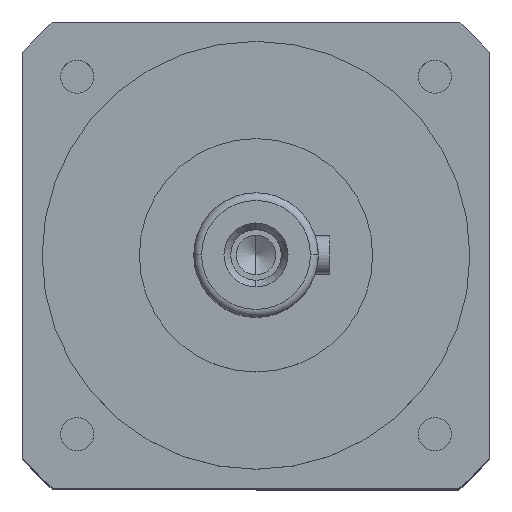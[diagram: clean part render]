
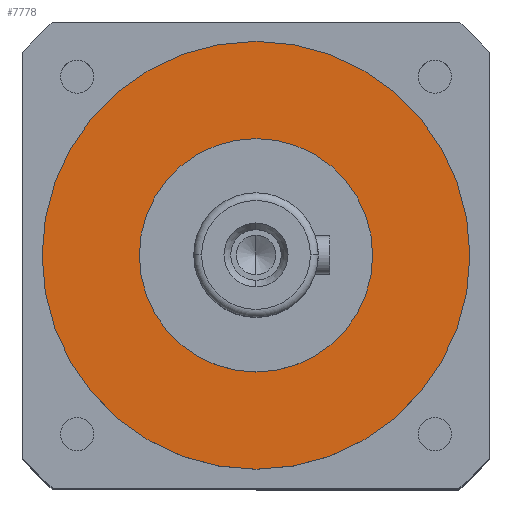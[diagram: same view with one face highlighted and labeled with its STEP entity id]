
A CAD part, top view. The second image highlights one B-rep face of the part: STEP entity #7778.
In plain terms, the highlighted planar face has unit normal (0, 0, 1).
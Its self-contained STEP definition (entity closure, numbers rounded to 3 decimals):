
#700 = EDGE_CURVE ( 'NONE', #35734, #25849, #10224, .T. ) ;
#2408 = ORIENTED_EDGE ( 'NONE', *, *, #700, .F. ) ;
#2995 = FACE_OUTER_BOUND ( 'NONE', #17918, .T. ) ;
#3533 = EDGE_CURVE ( 'NONE', #4888, #18988, #25947, .T. ) ;
#4888 = VERTEX_POINT ( 'NONE', #41188 ) ;
#7778 = ADVANCED_FACE ( 'NONE', ( #15347, #2995 ), #26363, .F. ) ;
#8928 = CARTESIAN_POINT ( 'NONE',  ( 30., 0., -52. ) ) ;
#10224 = CIRCLE ( 'NONE', #19613, 30. ) ;
#12167 = CARTESIAN_POINT ( 'NONE',  ( 0., 0., -52. ) ) ;
#13253 = CARTESIAN_POINT ( 'NONE',  ( 0., 0., -52. ) ) ;
#14141 = CARTESIAN_POINT ( 'NONE',  ( -55., 0., -52. ) ) ;
#14198 = CIRCLE ( 'NONE', #43589, 30. ) ;
#15347 = FACE_BOUND ( 'NONE', #28214, .T. ) ;
#15640 = DIRECTION ( 'NONE',  ( 1., 0., 0. ) ) ;
#15823 = CIRCLE ( 'NONE', #38932, 55. ) ;
#16663 = CARTESIAN_POINT ( 'NONE',  ( -30., 0., -52. ) ) ;
#16723 = DIRECTION ( 'NONE',  ( 1., 0., 0. ) ) ;
#17918 = EDGE_LOOP ( 'NONE', ( #37326, #23477 ) ) ;
#18988 = VERTEX_POINT ( 'NONE', #14141 ) ;
#19613 = AXIS2_PLACEMENT_3D ( 'NONE', #28046, #28002, #27996 ) ;
#20710 = DIRECTION ( 'NONE',  ( 1., 0., 0. ) ) ;
#20758 = DIRECTION ( 'NONE',  ( 0., 0., -1. ) ) ;
#20817 = CARTESIAN_POINT ( 'NONE',  ( 0., 0., -52. ) ) ;
#23477 = ORIENTED_EDGE ( 'NONE', *, *, #28581, .F. ) ;
#25849 = VERTEX_POINT ( 'NONE', #8928 ) ;
#25947 = CIRCLE ( 'NONE', #41371, 55. ) ;
#26196 = DIRECTION ( 'NONE',  ( -1., 0., 0. ) ) ;
#26300 = DIRECTION ( 'NONE',  ( 0., 0., -1. ) ) ;
#26361 = EDGE_CURVE ( 'NONE', #25849, #35734, #14198, .T. ) ;
#26363 = PLANE ( 'NONE',  #37081 ) ;
#26448 = CARTESIAN_POINT ( 'NONE',  ( 0., 30., -52. ) ) ;
#27996 = DIRECTION ( 'NONE',  ( 1., 0., 0. ) ) ;
#28002 = DIRECTION ( 'NONE',  ( 0., 0., 1. ) ) ;
#28046 = CARTESIAN_POINT ( 'NONE',  ( 0., 0., -52. ) ) ;
#28214 = EDGE_LOOP ( 'NONE', ( #40854, #2408 ) ) ;
#28581 = EDGE_CURVE ( 'NONE', #18988, #4888, #15823, .T. ) ;
#35734 = VERTEX_POINT ( 'NONE', #16663 ) ;
#36468 = DIRECTION ( 'NONE',  ( 0., 0., 1. ) ) ;
#37081 = AXIS2_PLACEMENT_3D ( 'NONE', #26448, #26300, #26196 ) ;
#37326 = ORIENTED_EDGE ( 'NONE', *, *, #3533, .F. ) ;
#37569 = DIRECTION ( 'NONE',  ( 0., 0., -1. ) ) ;
#38932 = AXIS2_PLACEMENT_3D ( 'NONE', #13253, #37569, #16723 ) ;
#40854 = ORIENTED_EDGE ( 'NONE', *, *, #26361, .F. ) ;
#41188 = CARTESIAN_POINT ( 'NONE',  ( 55., 0., -52. ) ) ;
#41371 = AXIS2_PLACEMENT_3D ( 'NONE', #20817, #20758, #20710 ) ;
#43589 = AXIS2_PLACEMENT_3D ( 'NONE', #12167, #36468, #15640 ) ;
